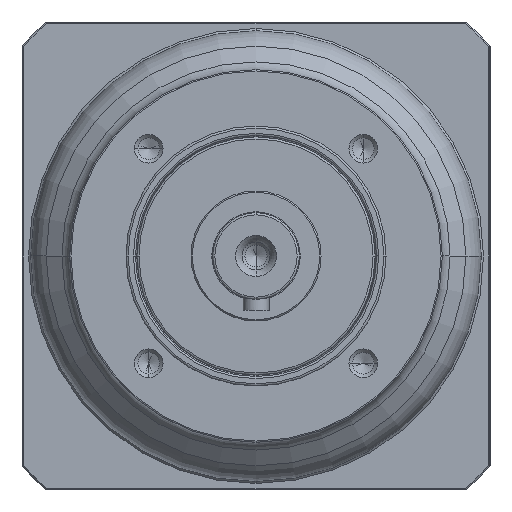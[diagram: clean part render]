
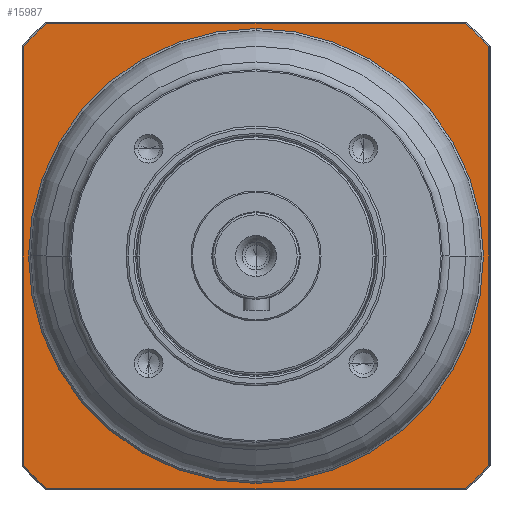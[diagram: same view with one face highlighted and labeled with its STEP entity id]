
A CAD part, left-side view. The second image highlights one B-rep face of the part: STEP entity #15987.
In plain terms, the highlighted planar face has unit normal (-1, 0, 0) as drawn and (0, 0, -1) by its records, which use the part's own axes.
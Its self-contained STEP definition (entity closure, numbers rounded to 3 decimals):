
#14881=CARTESIAN_POINT('',(0.,0.,
2.5));
#14882=DIRECTION('',(0.,0.,-1.));
#14883=DIRECTION('',(0.,-1.,0.));
#14884=AXIS2_PLACEMENT_3D('',#14881,#14882,#14883);
#14886=CARTESIAN_POINT('',(0.,0.,2.5));
#14887=DIRECTION('',(0.,0.,-1.));
#14888=DIRECTION('',(0.,1.,0.));
#14889=AXIS2_PLACEMENT_3D('',#14886,#14887,#14888);
#14891=CARTESIAN_POINT('',(0.,0.,2.5));
#14892=DIRECTION('',(0.,0.,1.));
#14893=DIRECTION('',(-0.744,-0.668,0.));
#14894=AXIS2_PLACEMENT_3D('',#14891,#14892,#14893);
#14896=DIRECTION('',(1.,0.,0.));
#14897=VECTOR('',#14896,96.523);
#14898=CARTESIAN_POINT('',(-48.261,-53.7,
2.5));
#14899=LINE('',#14898,#14897);
#14900=CARTESIAN_POINT('',(0.,0.,2.5));
#14901=DIRECTION('',(0.,0.,1.));
#14902=DIRECTION('',(0.668,-0.744,0.));
#14903=AXIS2_PLACEMENT_3D('',#14900,#14901,#14902);
#14905=DIRECTION('',(0.,1.,0.));
#14906=VECTOR('',#14905,96.523);
#14907=CARTESIAN_POINT('',(53.7,-48.261,
2.5));
#14908=LINE('',#14907,#14906);
#14909=CARTESIAN_POINT('',(0.,0.,2.5));
#14910=DIRECTION('',(0.,0.,1.));
#14911=DIRECTION('',(0.744,0.668,0.));
#14912=AXIS2_PLACEMENT_3D('',#14909,#14910,#14911);
#14914=DIRECTION('',(-1.,0.,0.));
#14915=VECTOR('',#14914,96.523);
#14916=CARTESIAN_POINT('',(48.261,53.7,2.5));
#14917=LINE('',#14916,#14915);
#14918=CARTESIAN_POINT('',(0.,0.,2.5));
#14919=DIRECTION('',(0.,0.,1.));
#14920=DIRECTION('',(-0.668,0.744,0.));
#14921=AXIS2_PLACEMENT_3D('',#14918,#14919,#14920);
#14923=DIRECTION('',(0.,-1.,0.));
#14924=VECTOR('',#14923,96.523);
#14925=CARTESIAN_POINT('',(-53.7,48.261,
2.5));
#14926=LINE('',#14925,#14924);
#15644=CARTESIAN_POINT('',(0.,-52.5,2.5));
#15645=CARTESIAN_POINT('',(0.,52.5,
2.5));
#15646=VERTEX_POINT('',#15644);
#15647=VERTEX_POINT('',#15645);
#15716=CARTESIAN_POINT('',(-53.7,-48.261,2.5));
#15717=CARTESIAN_POINT('',(-48.261,-53.7,2.5));
#15718=VERTEX_POINT('',#15716);
#15719=VERTEX_POINT('',#15717);
#15724=CARTESIAN_POINT('',(48.261,-53.7,
2.5));
#15725=VERTEX_POINT('',#15724);
#15728=CARTESIAN_POINT('',(53.7,-48.261,2.5));
#15729=VERTEX_POINT('',#15728);
#15732=CARTESIAN_POINT('',(53.7,48.261,2.5));
#15733=VERTEX_POINT('',#15732);
#15736=CARTESIAN_POINT('',(48.261,53.7,2.5));
#15737=VERTEX_POINT('',#15736);
#15740=CARTESIAN_POINT('',(-48.261,53.7,
2.5));
#15741=VERTEX_POINT('',#15740);
#15746=CARTESIAN_POINT('',(-53.7,48.261,2.5));
#15747=VERTEX_POINT('',#15746);
#15959=CARTESIAN_POINT('',(0.,0.,2.5));
#15960=DIRECTION('',(0.,0.,1.));
#15961=DIRECTION('',(0.,1.,0.));
#15962=AXIS2_PLACEMENT_3D('',#15959,#15960,#15961);
#15963=PLANE('',#15962);
#15965=ORIENTED_EDGE('',*,*,#15964,.T.);
#15967=ORIENTED_EDGE('',*,*,#15966,.T.);
#15969=ORIENTED_EDGE('',*,*,#15968,.T.);
#15971=ORIENTED_EDGE('',*,*,#15970,.T.);
#15973=ORIENTED_EDGE('',*,*,#15972,.T.);
#15975=ORIENTED_EDGE('',*,*,#15974,.T.);
#15977=ORIENTED_EDGE('',*,*,#15976,.T.);
#15979=ORIENTED_EDGE('',*,*,#15978,.T.);
#15980=EDGE_LOOP('',(#15965,#15967,#15969,#15971,#15973,#15975,#15977,#15979));
#15981=FACE_OUTER_BOUND('',#15980,.F.);
#15983=ORIENTED_EDGE('',*,*,#15982,.T.);
#15984=ORIENTED_EDGE('',*,*,#15949,.T.);
#15985=EDGE_LOOP('',(#15983,#15984));
#15986=FACE_BOUND('',#15985,.F.);
#15987=ADVANCED_FACE('',(#15981,#15986),#15963,.F.);
#14885=CIRCLE('',#14884,52.5);
#14890=CIRCLE('',#14889,52.5);
#14895=CIRCLE('',#14894,72.2);
#14904=CIRCLE('',#14903,72.2);
#14913=CIRCLE('',#14912,72.2);
#14922=CIRCLE('',#14921,72.2);
#15949=EDGE_CURVE('',#15647,#15646,#14890,.T.);
#15964=EDGE_CURVE('',#15718,#15719,#14895,.T.);
#15966=EDGE_CURVE('',#15719,#15725,#14899,.T.);
#15968=EDGE_CURVE('',#15725,#15729,#14904,.T.);
#15970=EDGE_CURVE('',#15729,#15733,#14908,.T.);
#15972=EDGE_CURVE('',#15733,#15737,#14913,.T.);
#15974=EDGE_CURVE('',#15737,#15741,#14917,.T.);
#15976=EDGE_CURVE('',#15741,#15747,#14922,.T.);
#15978=EDGE_CURVE('',#15747,#15718,#14926,.T.);
#15982=EDGE_CURVE('',#15646,#15647,#14885,.T.);
